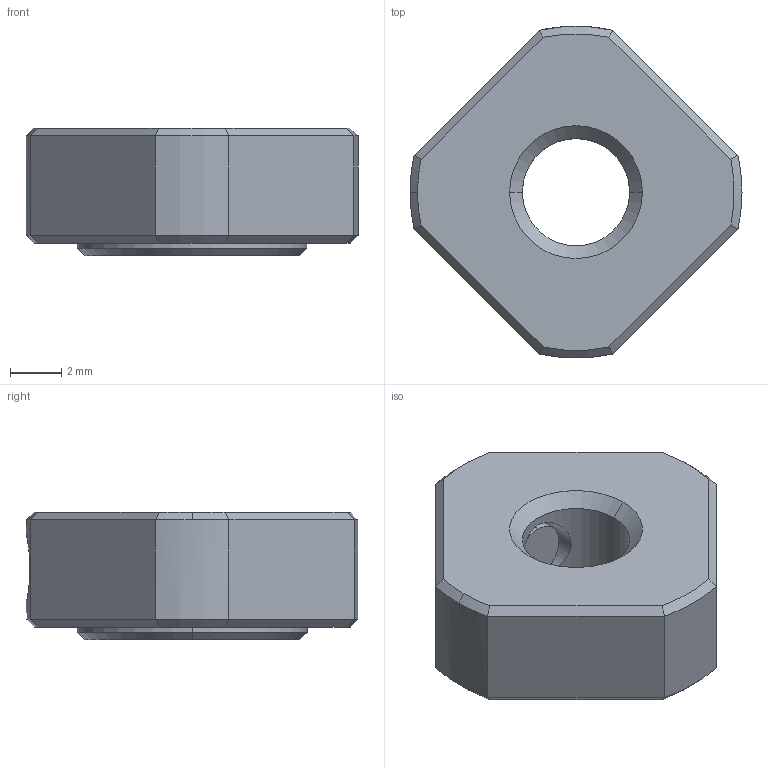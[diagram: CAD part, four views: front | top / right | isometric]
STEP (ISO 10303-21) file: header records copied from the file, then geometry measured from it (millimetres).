
FILE_DESCRIPTION (( 'STEP AP203' ), '1' );
FILE_NAME ('RN05.STEP', '2009-05-27T00:14:06', ( '冠犁泅' ), ( '俺惯何' ), 'SwSTEP 2.0', 'SolidWorks 2007', '' );
FILE_SCHEMA (( 'CONFIG_CONTROL_DESIGN' ));
Length unit declared in the file: millimetre
Products named in the file (4): SET PIECE_白2.3x1_晦獄 撲薑; RN05_NUT_晦獄 撲薑; RN05; Socket Set Screw Flat Point_AM_B18.3.6M - M3 x 0.5 x 3 Hex Socket Flat Pt. SS --N_B18.3.6M - M3 x 0.5 x 3 Hex Socket Flat Pt. SS --N
Assembly tree (3 placements, depth 2):
  RN05
    SET PIECE_白2.3x1_晦獄 撲薑
    RN05_NUT_晦獄 撲薑
    Socket Set Screw Flat Point_AM_B18.3.6M - M3 x 0.5 x 3 Hex Socket Flat Pt. SS --N_B18.3.6M - M3 x 0.5 x 3 Hex Socket Flat Pt. SS --N
Bounding box: 13 x 12.98 x 5 mm (x, y, z)
Volume: 462.6 mm3; surface area: 519.4 mm2
Topology: 3 solids, 3 shells, 61 faces, 132 edges, 79 vertices
Faces by surface type: plane 26, cone 20, cylinder 15
Entity records: 2159 total; most frequent: CARTESIAN_POINT 418, DIRECTION 293, ORIENTED_EDGE 264, EDGE_CURVE 132, AXIS2_PLACEMENT_3D 114, VERTEX_POINT 79, EDGE_LOOP 67, LINE 65
